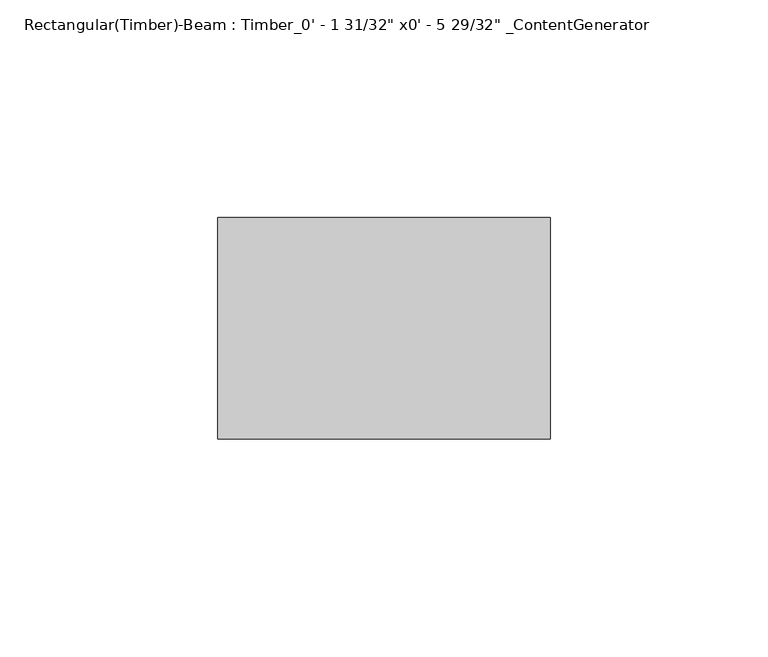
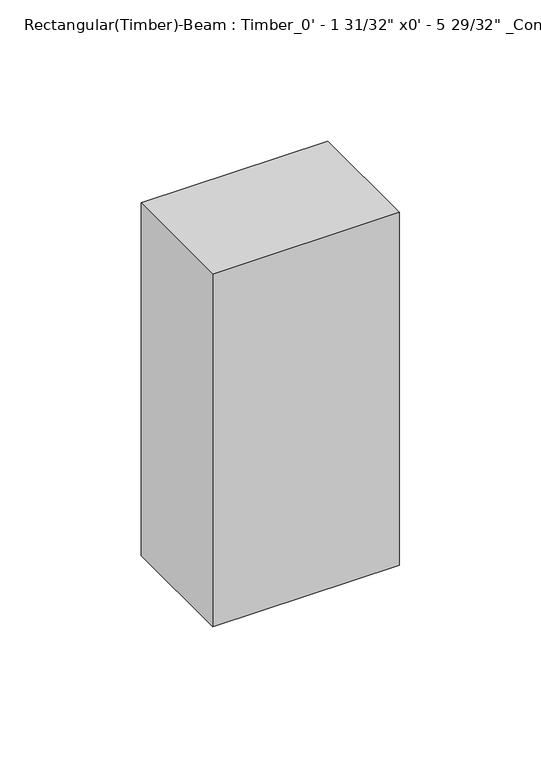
"""IFC4 building model written with IfcOpenShell, lengths in millimetres: beam geometry."""

from ifc_helpers import new_model, si_unit, frame, origin, place, context, project, spatial, polyline, outline, extrude, source, transform, mapped, element, save


def beam_836907a7(model_context):
    return source(origin(), model_context, "Body", "SweptSolid", [
        extrude(outline(polyline([(25.405, 25.4), (25.405, -25.4), (-50.8049994, -25.4), (-50.8049994, 25.4), (25.405, 25.4)])), frame((0.0, 0.0, -76.2), z_axis=(0.0, 0.0, 1.0), x_axis=(1.0, 0.0, 0.0)), (0.0, 0.0, 1.0), 152.4),
    ])


if __name__ == "__main__":
    model = new_model("IFC4")
    model_context = context("Model", 3, world=origin())
    ifc_project = project(units=[si_unit("LENGTHUNIT", "METRE", prefix="MILLI")], contexts=[model_context])
    site = spatial("IfcSite", under=ifc_project)
    building = spatial("IfcBuilding", under=site)
    placement = place(None, origin())
    beam_shape = beam_836907a7(model_context)
    element("IfcBeam", 1, ObjectType="Rectangular(Timber)-Beam : Timber_0' - 1 31/32\" x0' - 5 29/32\" _ContentGenerator", at=placement, inside=building, context=model_context, shape_type="MappedRepresentation", body=[
        mapped(beam_shape, transform((0.0, 0.0, 0.0), x_axis=(1.0, 0.0, 0.0), y_axis=(0.0, 1.0, 0.0), z_axis=(0.0, 0.0, 1.0))),
    ])
    save(model, "model.ifc")
